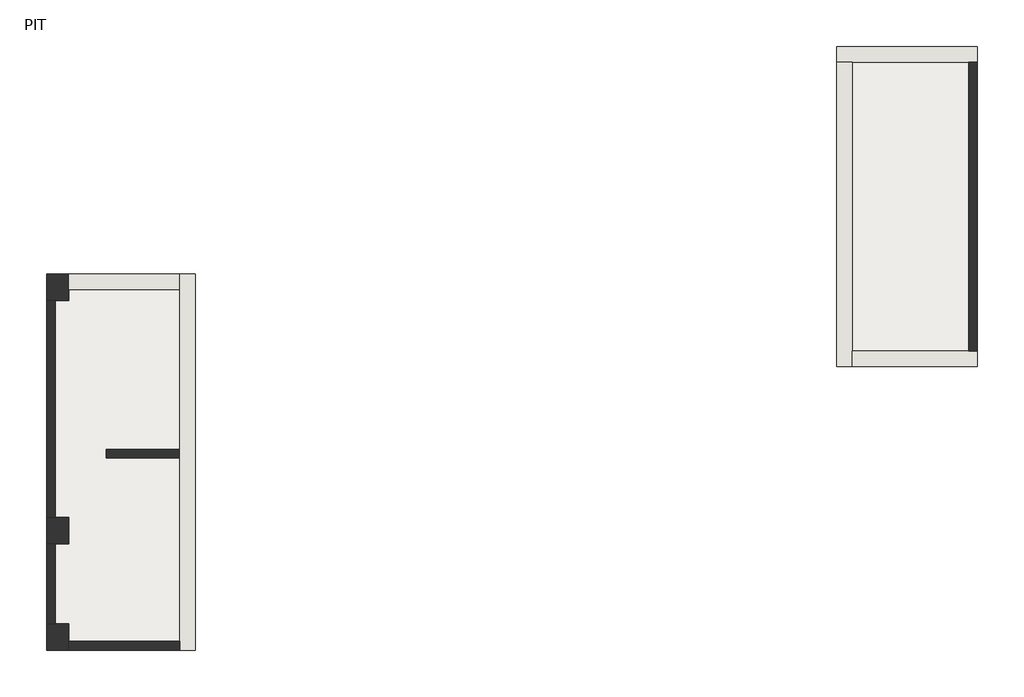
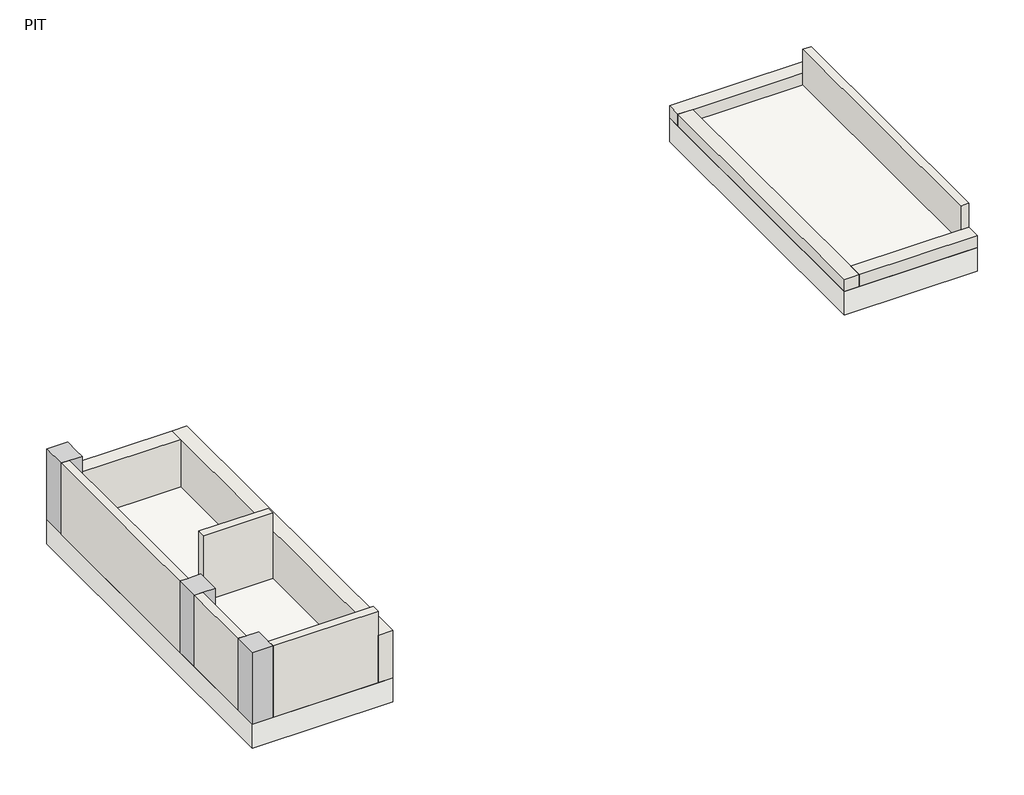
# One storey: 10 walls, 3 columns, 2 slabs.
"""IFC4 building model written with IfcOpenShell, lengths in millimetres."""

from ifc_helpers import new_model, si_unit, frame, origin, place, context, project, spatial, polyline, outline, extrude, faceted_brep, element, save

model = new_model("IFC4")

# Units and contexts
model_context = context("Model", 3, world=origin())
ifc_project = project(units=[si_unit("LENGTHUNIT", "METRE", prefix="MILLI")], contexts=[model_context])

# Site, building, storey
site = spatial("IfcSite", under=ifc_project)
building = spatial("IfcBuilding", under=site)
storey = spatial("IfcBuildingStorey", under=building, Name="PIT", Elevation=-5400.0)

# Columns
placement = place(None, origin())
element("IfcColumn", 1, ObjectType="CL100-구조 기둥 : CL100-구조 기둥_500x600", at=placement, inside=storey, context=model_context, shape_type="Brep", body=[
    faceted_brep([(-250.0, -300.0, -5400.0), (-250.0, 300.0, -5400.0), (-50.0, 300.0, -5400.0), (250.0, 300.0, -5400.0), (250.0, -300.0, -5400.0), (-50.0, -300.0, -5400.0), (-250.0, -300.0, -3600.0), (-250.0, 300.0, -3600.0), (-50.0, 300.0, -3600.0), (250.0, 300.0, -3600.0), (250.0, -300.0, -3600.0), (-50.0, -300.0, -3600.0)], [[[0, 1, 2, 3, 4, 5]], [[6, 7, 1, 0]], [[7, 8, 9, 3, 2, 1]], [[9, 10, 4, 3]], [[10, 11, 6, 0, 5, 4]], [[6, 11, 10, 9, 8, 7]]]),
])
element("IfcColumn", 2, ObjectType="CL100-구조 기둥 : CL100-구조 기둥_500x600", at=placement, inside=storey, context=model_context, shape_type="Brep", body=[
    faceted_brep([(-250.0, 5200.0, -5400.0), (-250.0, 5800.0, -5400.0), (250.0, 5800.0, -5400.0), (250.0, 5450.0, -5400.0), (250.0, 5200.0, -5400.0), (-50.0, 5200.0, -5400.0), (-250.0, 5200.0, -3600.0), (-250.0, 5800.0, -3600.0), (-250.0, 5800.0, -4200.0), (250.0, 5800.0, -3600.0), (250.0, 5800.0, -4200.0), (250.0, 5450.0, -3600.0), (250.0, 5200.0, -3600.0), (-50.0, 5200.0, -3600.0)], [[[0, 1, 2, 3, 4, 5]], [[6, 7, 8, 1, 0]], [[7, 9, 10, 2, 1, 8]], [[9, 11, 12, 4, 3, 2, 10]], [[12, 13, 6, 0, 5, 4]], [[6, 13, 12, 11, 9, 7]]]),
])
element("IfcColumn", 3, ObjectType="CL100-구조 기둥 : CL100-구조 기둥_500x600", at=placement, inside=storey, context=model_context, shape_type="Brep", body=[
    faceted_brep([(-250.0, -2700.0, -5400.0), (-250.0, -2100.0, -5400.0), (-50.0, -2100.0, -5400.0), (250.0, -2100.0, -5400.0), (250.0, -2500.0, -5400.0), (250.0, -2700.0, -5400.0), (-250.0, -2700.0, -3600.0), (-250.0, -2100.0, -3600.0), (-50.0, -2100.0, -3600.0), (250.0, -2100.0, -3600.0), (250.0, -2500.0, -3600.0), (250.0, -2700.0, -3600.0)], [[[0, 1, 2, 3, 4, 5]], [[6, 7, 1, 0]], [[7, 8, 9, 3, 2, 1]], [[9, 10, 11, 5, 4, 3]], [[11, 6, 0, 5]], [[6, 11, 10, 9, 8, 7]]]),
])

# Slabs
element("IfcSlab", 4, ObjectType="FT100-구조 기초 600", at=placement, inside=storey, context=model_context, shape_type="Brep", body=[
    faceted_brep([(3100.0, 5800.0, -6000.0), (3100.0, -2700.0, -6000.0), (-250.0, -2700.0, -6000.0), (-250.0, 5800.0, -6000.0), (3100.0, 5800.0, -5400.0), (2750.0, 5800.0, -5400.0), (250.0, 5800.0, -5400.0), (-250.0, 5800.0, -5400.0), (-250.0, 5200.0, -5400.0), (-250.0, 300.0, -5400.0), (-250.0, -300.0, -5400.0), (-250.0, -2100.0, -5400.0), (-250.0, -2700.0, -5400.0), (250.0, -2700.0, -5400.0), (2750.0, -2700.0, -5400.0), (3100.0, -2700.0, -5400.0)], [[[0, 1, 2, 3]], [[4, 5, 6, 7, 8, 9, 10, 11, 12, 13, 14, 15]], [[1, 0, 4, 15]], [[2, 1, 15, 14, 13, 12]], [[3, 2, 12, 11, 10, 9, 8, 7]], [[0, 3, 7, 6, 5, 4]]]),
])
element("IfcSlab", 5, ObjectType="FT100-구조 기초 600", at=placement, inside=storey, context=model_context, shape_type="Brep", body=[
    faceted_brep([(20750.0, 10931.9854476, -5200.0), (20750.0, 3706.9854476, -5200.0), (17575.0, 3706.9854476, -5200.0), (17575.0, 10931.9854476, -5200.0), (20750.0, 10931.9854476, -4600.0), (17575.0, 10931.9854476, -4600.0), (17575.0, 10581.9854476, -4600.0), (17575.0, 3706.9854476, -4600.0), (17925.0, 3706.9854476, -4600.0), (20750.0, 3706.9854476, -4600.0), (20750.0, 4056.9854476, -4600.0), (20750.0, 10581.9854476, -4600.0)], [[[0, 1, 2, 3]], [[4, 5, 6, 7, 8, 9, 10, 11]], [[1, 0, 4, 11, 10, 9]], [[2, 1, 9, 8, 7]], [[3, 2, 7, 6, 5]], [[0, 3, 5, 4]]]),
])

# Walls
element("IfcWall", 6, ObjectType="WA100-구조 벽 200", at=placement, inside=storey, context=model_context, shape_type="SweptSolid", body=[
    extrude(outline(polyline([(-50.0, -300.0), (-50.0, -2100.0), (-250.0, -2100.0), (-250.0, -300.0), (-50.0, -300.0)])), frame((0.0, 0.0, -5400.0), z_axis=(0.0, 0.0, 1.0), x_axis=(1.0, 0.0, 0.0)), (0.0, 0.0, 1.0), 1800.0),
])
element("IfcWall", 7, ObjectType="WA100-구조 벽 350", at=placement, inside=storey, context=model_context, shape_type="Brep", body=[
    faceted_brep([(3100.0, -2700.0, -5400.0), (3100.0, 5800.0, -5400.0), (3100.0, 5800.0, -4200.0), (3100.0, -2700.0, -4200.0), (2750.0, -2700.0, -5400.0), (2750.0, -2700.0, -4200.0), (2750.0, 5450.0, -4200.0), (2750.0, 5800.0, -4200.0), (2750.0, 5800.0, -5400.0), (2750.0, 5450.0, -5400.0), (2750.0, -2500.0, -5400.0)], [[[0, 1, 2, 3]], [[4, 5, 6, 7, 8, 9, 10]], [[1, 0, 4, 10, 9, 8]], [[3, 2, 7, 6, 5]], [[2, 1, 8, 7]], [[0, 3, 5, 4]]]),
])
element("IfcWall", 8, ObjectType="WA100-구조 벽 200", at=placement, inside=storey, context=model_context, shape_type="Brep", body=[
    faceted_brep([(2750.0, -2500.0, -5400.0), (250.0, -2500.0, -5400.0), (250.0, -2500.0, -3600.0), (2750.0, -2500.0, -3600.0), (2750.0, -2500.0, -4200.0), (250.0, -2700.0, -5400.0), (2750.0, -2700.0, -5400.0), (2750.0, -2700.0, -4200.0), (2750.0, -2700.0, -3600.0), (250.0, -2700.0, -3600.0)], [[[0, 1, 2, 3, 4]], [[5, 6, 7, 8, 9]], [[1, 0, 6, 5]], [[2, 1, 5, 9]], [[3, 2, 9, 8]], [[3, 8, 7, 6, 0, 4]]]),
])
element("IfcWall", 9, ObjectType="WA100-구조 벽 350", at=placement, inside=storey, context=model_context, shape_type="SweptSolid", body=[
    extrude(outline(polyline([(2750.0, 5450.0), (250.0, 5450.0), (250.0, 5800.0), (2750.0, 5800.0), (2750.0, 5450.0)])), frame((0.0, 0.0, -5400.0), z_axis=(0.0, 0.0, 1.0), x_axis=(1.0, 0.0, 0.0)), (0.0, 0.0, 1.0), 1200.0),
])
element("IfcWall", 10, ObjectType="WA100-구조 벽 200", at=placement, inside=storey, context=model_context, shape_type="Brep", body=[
    faceted_brep([(20550.0, 10581.9854476, -4600.0), (20550.0, 4056.9854476, -4600.0), (20550.0, 4056.9854476, -4300.0), (20550.0, 4056.9854476, -3700.0), (20550.0, 10581.9854476, -3700.0), (20550.0, 10581.9854476, -4300.0), (20750.0, 4056.9854476, -4600.0), (20750.0, 10581.9854476, -4600.0), (20750.0, 10581.9854476, -4300.0), (20750.0, 10581.9854476, -3700.0), (20750.0, 4056.9854476, -3700.0), (20750.0, 4056.9854476, -4300.0)], [[[0, 1, 2, 3, 4, 5]], [[6, 7, 8, 9, 10, 11]], [[1, 0, 7, 6]], [[4, 3, 10, 9]], [[4, 9, 8, 7, 0, 5]], [[1, 6, 11, 10, 3, 2]]]),
])
element("IfcWall", 11, ObjectType="WA100-구조 벽 350", at=placement, inside=storey, context=model_context, shape_type="Brep", body=[
    faceted_brep([(20750.0, 10931.9854476, -4600.0), (17575.0, 10931.9854476, -4600.0), (17575.0, 10931.9854476, -4300.0), (20750.0, 10931.9854476, -4300.0), (20750.0, 10581.9854476, -4600.0), (20750.0, 10581.9854476, -4300.0), (17925.0, 10581.9854476, -4300.0), (17575.0, 10581.9854476, -4300.0), (17575.0, 10581.9854476, -4600.0), (17925.0, 10581.9854476, -4600.0), (20550.0, 10581.9854476, -4600.0)], [[[0, 1, 2, 3]], [[4, 5, 6, 7, 8, 9, 10]], [[1, 0, 4, 10, 9, 8]], [[3, 2, 7, 6, 5]], [[2, 1, 8, 7]], [[0, 3, 5, 4]]]),
])
element("IfcWall", 12, ObjectType="WA100-구조 벽 350", at=placement, inside=storey, context=model_context, shape_type="Brep", body=[
    faceted_brep([(17575.0, 10581.9854476, -4600.0), (17575.0, 3706.9854476, -4600.0), (17575.0, 3706.9854476, -4300.0), (17575.0, 10581.9854476, -4300.0), (17925.0, 10581.9854476, -4600.0), (17925.0, 10581.9854476, -4300.0), (17925.0, 4056.9854476, -4300.0), (17925.0, 3706.9854476, -4300.0), (17925.0, 3706.9854476, -4600.0), (17925.0, 4056.9854476, -4600.0)], [[[0, 1, 2, 3]], [[4, 5, 6, 7, 8, 9]], [[1, 0, 4, 9, 8]], [[3, 2, 7, 6, 5]], [[0, 3, 5, 4]], [[2, 1, 8, 7]]]),
])
element("IfcWall", 13, ObjectType="WA100-구조 벽 350", at=placement, inside=storey, context=model_context, shape_type="Brep", body=[
    faceted_brep([(17925.0, 3706.9854476, -4600.0), (20750.0, 3706.9854476, -4600.0), (20750.0, 3706.9854476, -4300.0), (17925.0, 3706.9854476, -4300.0), (17925.0, 4056.9854476, -4600.0), (17925.0, 4056.9854476, -4300.0), (20750.0, 4056.9854476, -4300.0), (20750.0, 4056.9854476, -4600.0), (20550.0, 4056.9854476, -4600.0)], [[[0, 1, 2, 3]], [[4, 5, 6, 7, 8]], [[1, 0, 4, 8, 7]], [[3, 2, 6, 5]], [[0, 3, 5, 4]], [[2, 1, 7, 6]]]),
])
element("IfcWall", 14, ObjectType="WA100-구조 벽 200", at=placement, inside=storey, context=model_context, shape_type="Brep", body=[
    faceted_brep([(-50.0, 300.0, -5400.0), (-50.0, 5200.0, -5400.0), (-50.0, 5200.0, -3600.0), (-50.0, 1600.0, -3600.0), (-50.0, 300.0, -3600.0), (-250.0, 300.0, -5400.0), (-250.0, 300.0, -3600.0), (-250.0, 1600.0, -3600.0), (-250.0, 5200.0, -3600.0), (-250.0, 5200.0, -5400.0)], [[[0, 1, 2, 3, 4]], [[5, 6, 7, 8, 9]], [[1, 0, 5, 9]], [[2, 1, 9, 8]], [[4, 3, 2, 8, 7, 6]], [[0, 4, 6, 5]]]),
])
element("IfcWall", 15, ObjectType="WA100-구조 벽 200", at=placement, inside=storey, context=model_context, shape_type="SweptSolid", body=[
    extrude(outline(polyline([(2750.0, 1640.0), (1099.7569864, 1640.0), (1099.7569864, 1840.0), (2750.0, 1840.0), (2750.0, 1640.0)])), frame((0.0, 0.0, -5400.0), z_axis=(0.0, 0.0, 1.0), x_axis=(1.0, 0.0, 0.0)), (0.0, 0.0, 1.0), 1650.0),
])

save(model, "model.ifc")
